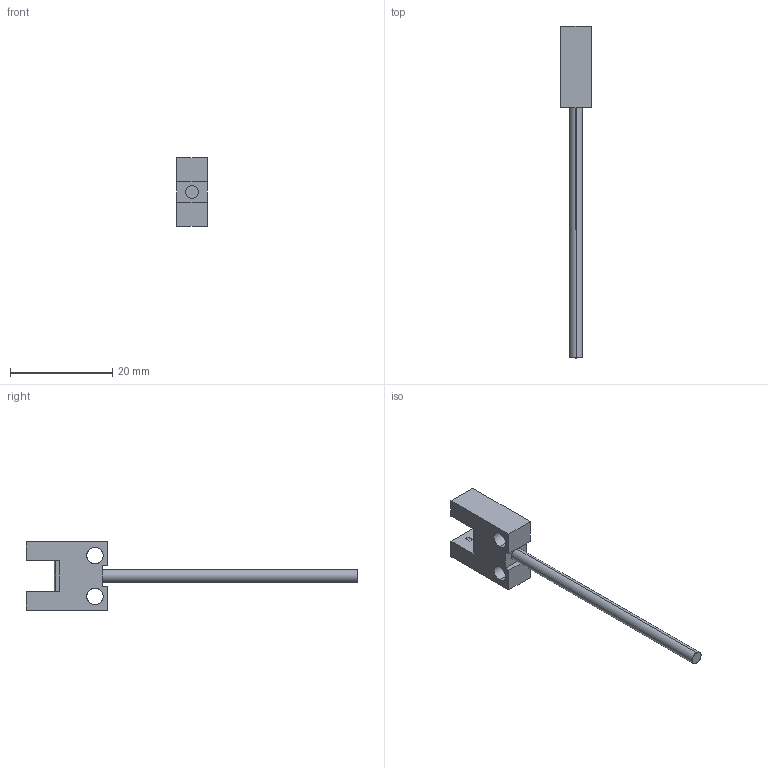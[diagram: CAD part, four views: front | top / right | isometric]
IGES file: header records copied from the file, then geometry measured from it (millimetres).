
Start section: SolidWorks IGES file using analytic representation for surfaces
Global section: file name: C:\catalog\pm-u25.IGS; native system: SolidWorks 2010; preprocessor: SolidWorks 2010; author: C0278; date: 150723.133919; units: millimetre
Bounding box: 6 x 65 x 13.4 mm (x, y, z)
Surface area: 1268.1 mm2 (no closed solid volume)
Topology: 0 solids, 0 shells, 53 faces, 456 edges, 456 vertices
Faces by surface type: bspline 47, revolution 6
